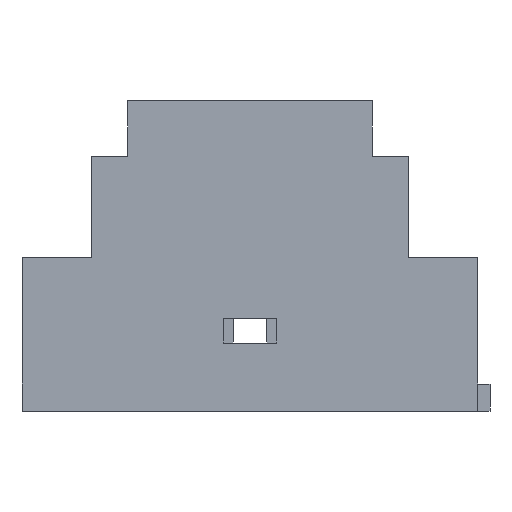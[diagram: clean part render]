
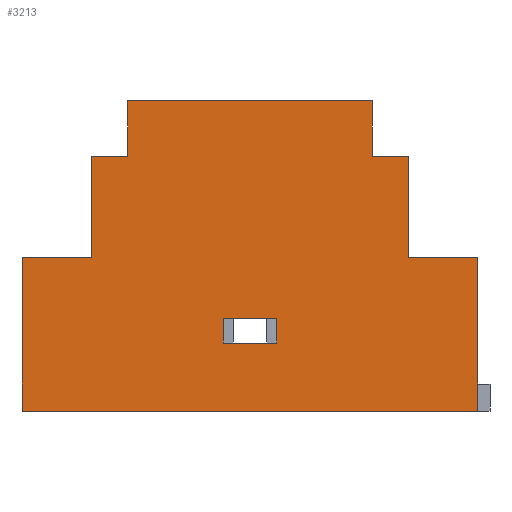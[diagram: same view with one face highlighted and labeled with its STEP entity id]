
A CAD part, left-side view. The second image highlights one B-rep face of the part: STEP entity #3213.
In plain terms, the highlighted planar face has unit normal (-1, 0, 0).
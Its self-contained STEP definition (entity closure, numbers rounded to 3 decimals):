
#470=CARTESIAN_POINT('',(0.,0.0,1.14));
#471=VERTEX_POINT('',#470);
#488=CARTESIAN_POINT('',(0.,0.512,1.14));
#489=VERTEX_POINT('',#488);
#496=CARTESIAN_POINT('',(0.,0.0,1.14));
#497=DIRECTION('',(0.0,1.0,0.0));
#498=VECTOR('',#497,0.512);
#499=LINE('',#496,#498);
#500=EDGE_CURVE('',#471,#489,#499,.T.);
#1470=CARTESIAN_POINT('',(0.,0.512,1.89));
#1471=VERTEX_POINT('',#1470);
#1478=CARTESIAN_POINT('',(0.,0.512,1.14));
#1479=DIRECTION('',(0.0,0.0,1.0));
#1480=VECTOR('',#1479,0.75);
#1481=LINE('',#1478,#1480);
#1482=EDGE_CURVE('',#489,#1471,#1481,.T.);
#2389=CARTESIAN_POINT('',(0.,1.491,0.505));
#2390=VERTEX_POINT('',#2389);
#2391=CARTESIAN_POINT('',(0.,1.888,0.505));
#2392=VERTEX_POINT('',#2391);
#2393=CARTESIAN_POINT('',(0.,1.491,0.505));
#2394=DIRECTION('',(0.0,1.0,0.0));
#2395=VECTOR('',#2394,0.397);
#2396=LINE('',#2393,#2395);
#2397=EDGE_CURVE('',#2390,#2392,#2396,.T.);
#2420=CARTESIAN_POINT('',(0.,1.888,0.685));
#2421=VERTEX_POINT('',#2420);
#2422=CARTESIAN_POINT('',(0.,1.888,0.505));
#2423=DIRECTION('',(0.0,0.0,1.0));
#2424=VECTOR('',#2423,0.18);
#2425=LINE('',#2422,#2424);
#2426=EDGE_CURVE('',#2392,#2421,#2425,.T.);
#2444=CARTESIAN_POINT('',(0.,1.491,0.685));
#2445=VERTEX_POINT('',#2444);
#2446=CARTESIAN_POINT('',(0.,1.888,0.685));
#2447=DIRECTION('',(0.0,-1.0,0.0));
#2448=VECTOR('',#2447,0.397);
#2449=LINE('',#2446,#2448);
#2450=EDGE_CURVE('',#2421,#2445,#2449,.T.);
#2468=CARTESIAN_POINT('',(0.,1.491,0.685));
#2469=DIRECTION('',(0.0,0.0,-1.0));
#2470=VECTOR('',#2469,0.18);
#2471=LINE('',#2468,#2470);
#2472=EDGE_CURVE('',#2445,#2390,#2471,.T.);
#2509=CARTESIAN_POINT('',(0.,2.867,1.14));
#2510=VERTEX_POINT('',#2509);
#2527=CARTESIAN_POINT('',(0.,3.379,1.14));
#2528=VERTEX_POINT('',#2527);
#2535=CARTESIAN_POINT('',(0.,2.867,1.14));
#2536=DIRECTION('',(0.0,1.0,0.0));
#2537=VECTOR('',#2536,0.512);
#2538=LINE('',#2535,#2537);
#2539=EDGE_CURVE('',#2510,#2528,#2538,.T.);
#2549=CARTESIAN_POINT('',(0.,2.866,1.89));
#2550=VERTEX_POINT('',#2549);
#2566=CARTESIAN_POINT('',(0.,2.866,1.89));
#2567=DIRECTION('',(0.0,0.0,-1.0));
#2568=VECTOR('',#2567,0.75);
#2569=LINE('',#2566,#2568);
#2570=EDGE_CURVE('',#2550,#2510,#2569,.T.);
#2598=CARTESIAN_POINT('',(0.,2.596,1.89));
#2599=VERTEX_POINT('',#2598);
#2615=CARTESIAN_POINT('',(0.,2.596,1.89));
#2616=DIRECTION('',(0.0,1.0,0.0));
#2617=VECTOR('',#2616,0.27);
#2618=LINE('',#2615,#2617);
#2619=EDGE_CURVE('',#2599,#2550,#2618,.T.);
#2972=CARTESIAN_POINT('',(0.,2.596,2.3));
#2973=VERTEX_POINT('',#2972);
#2989=CARTESIAN_POINT('',(0.,2.596,2.3));
#2990=DIRECTION('',(0.0,0.0,-1.0));
#2991=VECTOR('',#2990,0.41);
#2992=LINE('',#2989,#2991);
#2993=EDGE_CURVE('',#2973,#2599,#2992,.T.);
#3053=CARTESIAN_POINT('',(0.,0.783,1.89));
#3054=VERTEX_POINT('',#3053);
#3061=CARTESIAN_POINT('',(0.,0.512,1.89));
#3062=DIRECTION('',(0.0,1.0,0.0));
#3063=VECTOR('',#3062,0.271);
#3064=LINE('',#3061,#3063);
#3065=EDGE_CURVE('',#1471,#3054,#3064,.T.);
#3084=CARTESIAN_POINT('',(0.,0.783,2.3));
#3085=VERTEX_POINT('',#3084);
#3092=CARTESIAN_POINT('',(0.,0.783,1.89));
#3093=DIRECTION('',(0.0,0.0,1.0));
#3094=VECTOR('',#3093,0.41);
#3095=LINE('',#3092,#3094);
#3096=EDGE_CURVE('',#3054,#3085,#3095,.T.);
#3131=CARTESIAN_POINT('',(0.,0.783,2.3));
#3132=DIRECTION('',(0.0,1.0,0.0));
#3133=VECTOR('',#3132,1.813);
#3134=LINE('',#3131,#3133);
#3135=EDGE_CURVE('',#3085,#2973,#3134,.T.);
#3169=CARTESIAN_POINT('',(0.0,0.0,0.35));
#3170=DIRECTION('',(-1.0,0.0,0.0));
#3171=DIRECTION('',(0.0,0.0,-1.0));
#3172=AXIS2_PLACEMENT_3D('',#3169,#3170,#3171);
#3173=PLANE('',#3172);
#3174=CARTESIAN_POINT('',(0.,3.379,0.0));
#3175=VERTEX_POINT('',#3174);
#3176=CARTESIAN_POINT('',(0.,3.379,1.14));
#3177=DIRECTION('',(0.0,0.0,-1.0));
#3178=VECTOR('',#3177,1.14);
#3179=LINE('',#3176,#3178);
#3180=EDGE_CURVE('',#2528,#3175,#3179,.T.);
#3181=ORIENTED_EDGE('',*,*,#3180,.T.);
#3182=CARTESIAN_POINT('',(0.0,0.0,0.0));
#3183=VERTEX_POINT('',#3182);
#3184=CARTESIAN_POINT('',(0.0,0.0,0.0));
#3185=DIRECTION('',(0.0,1.0,0.0));
#3186=VECTOR('',#3185,3.379);
#3187=LINE('',#3184,#3186);
#3188=EDGE_CURVE('',#3183,#3175,#3187,.T.);
#3189=ORIENTED_EDGE('',*,*,#3188,.F.);
#3190=CARTESIAN_POINT('',(0.,0.0,1.14));
#3191=DIRECTION('',(0.0,0.0,-1.0));
#3192=VECTOR('',#3191,1.14);
#3193=LINE('',#3190,#3192);
#3194=EDGE_CURVE('',#471,#3183,#3193,.T.);
#3195=ORIENTED_EDGE('',*,*,#3194,.F.);
#3196=ORIENTED_EDGE('',*,*,#500,.T.);
#3197=ORIENTED_EDGE('',*,*,#1482,.T.);
#3198=ORIENTED_EDGE('',*,*,#3065,.T.);
#3199=ORIENTED_EDGE('',*,*,#3096,.T.);
#3200=ORIENTED_EDGE('',*,*,#3135,.T.);
#3201=ORIENTED_EDGE('',*,*,#2993,.T.);
#3202=ORIENTED_EDGE('',*,*,#2619,.T.);
#3203=ORIENTED_EDGE('',*,*,#2570,.T.);
#3204=ORIENTED_EDGE('',*,*,#2539,.T.);
#3205=EDGE_LOOP('',(#3181,#3189,#3195,#3196,#3197,#3198,#3199,#3200,#3201,#3202,#3203,#3204));
#3206=FACE_OUTER_BOUND('',#3205,.T.);
#3207=ORIENTED_EDGE('',*,*,#2397,.T.);
#3208=ORIENTED_EDGE('',*,*,#2426,.T.);
#3209=ORIENTED_EDGE('',*,*,#2450,.T.);
#3210=ORIENTED_EDGE('',*,*,#2472,.T.);
#3211=EDGE_LOOP('',(#3207,#3208,#3209,#3210));
#3212=FACE_BOUND('',#3211,.T.);
#3213=ADVANCED_FACE('',(#3206,#3212),#3173,.T.);
